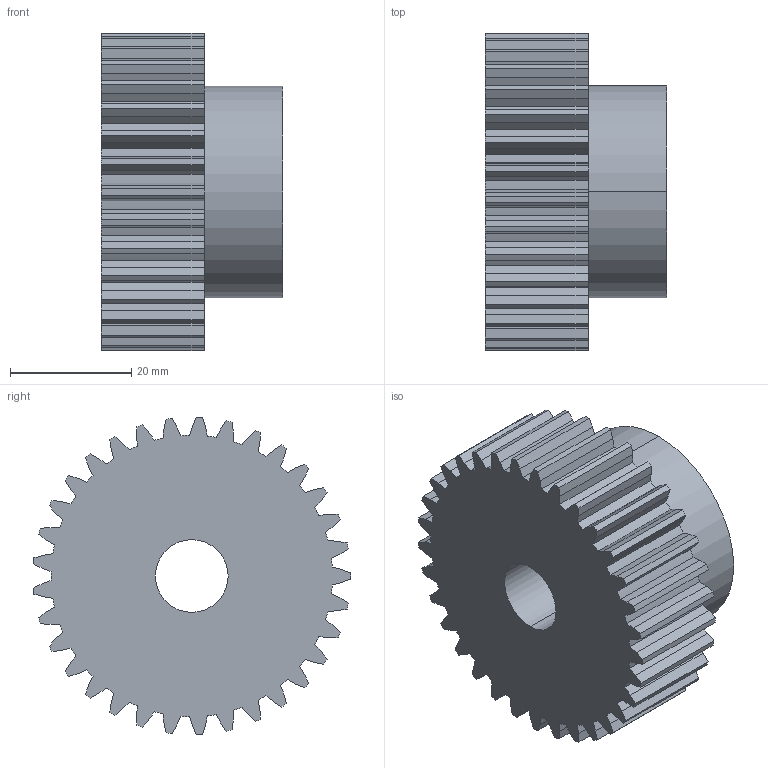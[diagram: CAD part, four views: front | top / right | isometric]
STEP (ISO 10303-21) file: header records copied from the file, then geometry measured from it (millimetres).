
FILE_DESCRIPTION (( 'STEP AP203' ), '1' );
FILE_NAME ('PM 27033.STEP', '2013-09-24T10:11:58', ( '' ), ( '' ), 'SwSTEP 2.0', 'SolidWorks 2010', '' );
FILE_SCHEMA (( 'CONFIG_CONTROL_DESIGN' ));
Length unit declared in the file: millimetre
Products named in the file (1): PM 27033
Bounding box: 30 x 52.42 x 52.48 mm (x, y, z)
Volume: 41462.7 mm3; surface area: 11118.3 mm2
Topology: 1 solids, 1 shells, 205 faces, 606 edges, 404 vertices
Faces by surface type: plane 135, cylinder 70
Entity records: 6923 total; most frequent: CARTESIAN_POINT 1222, ORIENTED_EDGE 1212, DIRECTION 1156, EDGE_CURVE 606, LINE 464, VECTOR 464, VERTEX_POINT 404, AXIS2_PLACEMENT_3D 346
